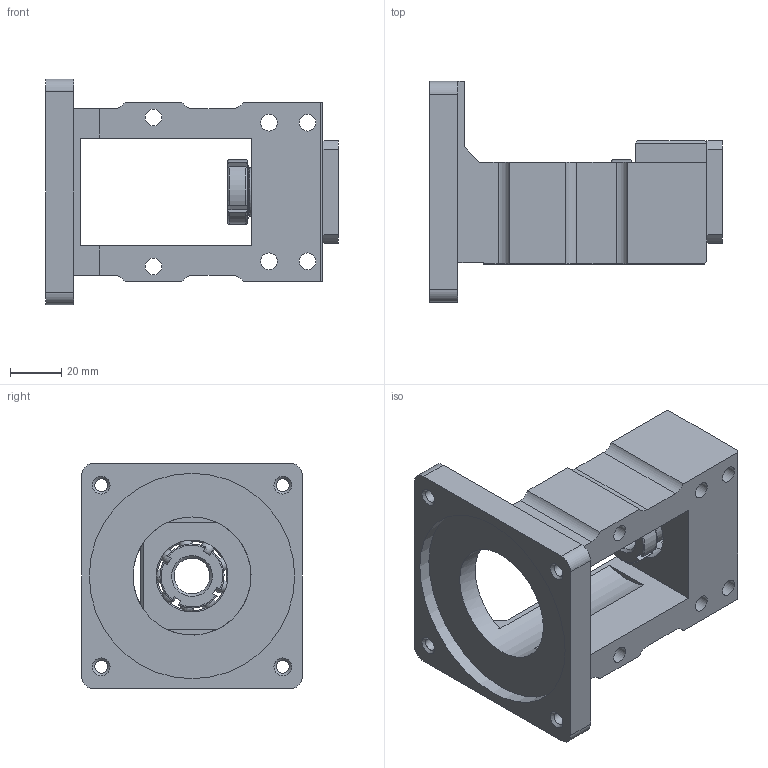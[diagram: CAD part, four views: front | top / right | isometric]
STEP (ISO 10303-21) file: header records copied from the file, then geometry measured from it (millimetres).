
FILE_DESCRIPTION(('STEP AP214'), '1');
FILE_NAME('HM15-090C5 - Êðîíøòåéí HM10', '', ('UNSPECIFIED'), ('UNSPECIFIED'), 'ASCON STEP Converter 1.6', 'ASCON Math Kernel', '');
FILE_SCHEMA(('AUTOMOTIVE_DESIGN { 1 0 10303 214 3 1 1}'));
Length unit declared in the file: millimetre
Products named in the file (1): HM15-090C5
Bounding box: 114 x 86 x 88 mm (x, y, z)
Volume: 191288 mm3; surface area: 68102.4 mm2
Topology: 31 solids, 31 shells, 313 faces, 782 edges, 505 vertices
Faces by surface type: plane 147, cylinder 80, cone 44, torus 24, sphere 18
Full cylindrical faces by diameter (mm): 3 x4, 3.242 x4, 4 x4, 4.5 x4, 4.917 x4, 6.5 x6, 7 x4, 7.5 x4, 10.5 x6, 13.917 x1, 15 x4, 19 x2, 19.972 x4, 21 x1, 27.027 x2, 28 x2, 32 x4, 46 x1, 80 x1
Entity records: 11979 total; most frequent: CARTESIAN_POINT 2341, DIRECTION 1485, ORIENTED_EDGE 1196, AXIS2_PLACEMENT_3D 617, EDGE_CURVE 598, EDGE_LOOP 477, VERTEX_POINT 461, COLOUR_RGB 344
